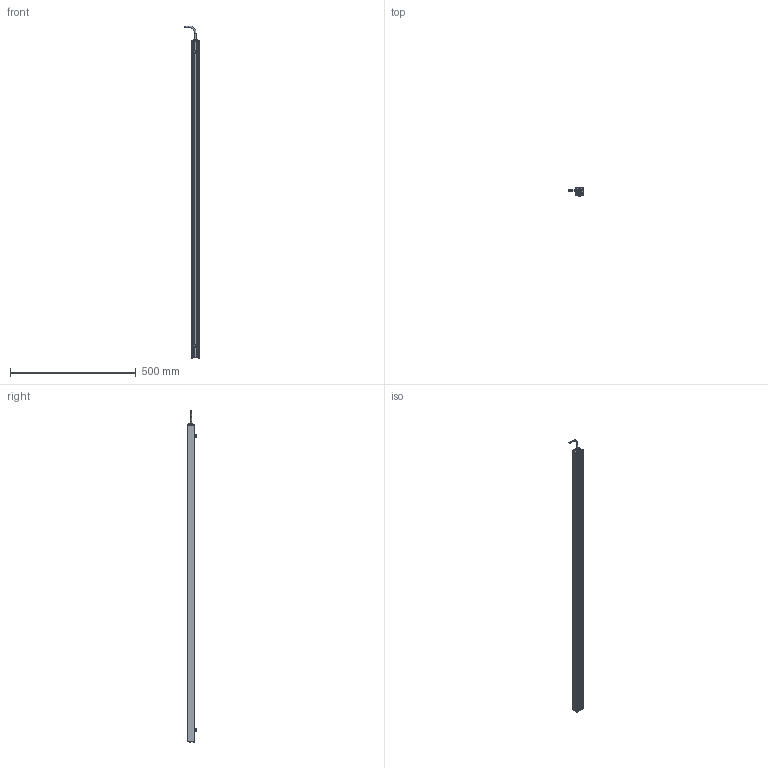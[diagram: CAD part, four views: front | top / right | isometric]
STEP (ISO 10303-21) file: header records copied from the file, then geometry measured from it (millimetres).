
FILE_DESCRIPTION (( 'STEP AP214' ), '1' );
FILE_NAME ('AL150XXXX_AL150288.stp', '2021-04-29T15:41:37', ( '' ), ( '' ), 'SwSTEP 2.0', 'SolidWorks 2018', '' );
FILE_SCHEMA (( 'AUTOMOTIVE_DESIGN' ));
Length unit declared in the file: inch
Products named in the file (12): AL150XXXX_AL150288; 150-01-005-XXX_150-01-005-288; CHM6x8_91460A312; 116-02-006; HN-M6_90592A016; Part2^AL150XXXX; Part1^AL150XXXX; 092408_TRUNCATED; 093145_93701A253; 1157 (no strap); 116-02-007; 150-03-006-XXXX_150-03-006-288
Assembly tree (18 placements, depth 2):
  AL150XXXX_AL150288
    150-01-005-XXX_150-01-005-288
    116-02-006
    093145_93701A253  x8
    HN-M6_90592A016  x2
    CHM6x8_91460A312  x2
    150-03-006-XXXX_150-03-006-288
    116-02-007
    1157 (no strap)
    092408_TRUNCATED
  Part2^AL150XXXX
  Part1^AL150XXXX
Bounding box: 60.68 x 33.84 x 1319.33 mm (x, y, z)
Volume: 392299.2 mm3; surface area: 415455.1 mm2
Topology: 26 solids, 26 shells, 1306 faces, 3436 edges, 2127 vertices
Faces by surface type: cylinder 805, cone 249, plane 153, torus 59, bspline 32, sphere 8
Entity records: 18285 total; most frequent: CARTESIAN_POINT 6069, ORIENTED_EDGE 2496, DIRECTION 2311, EDGE_CURVE 1248, AXIS2_PLACEMENT_3D 881, VERTEX_POINT 800, LINE 549, VECTOR 549
